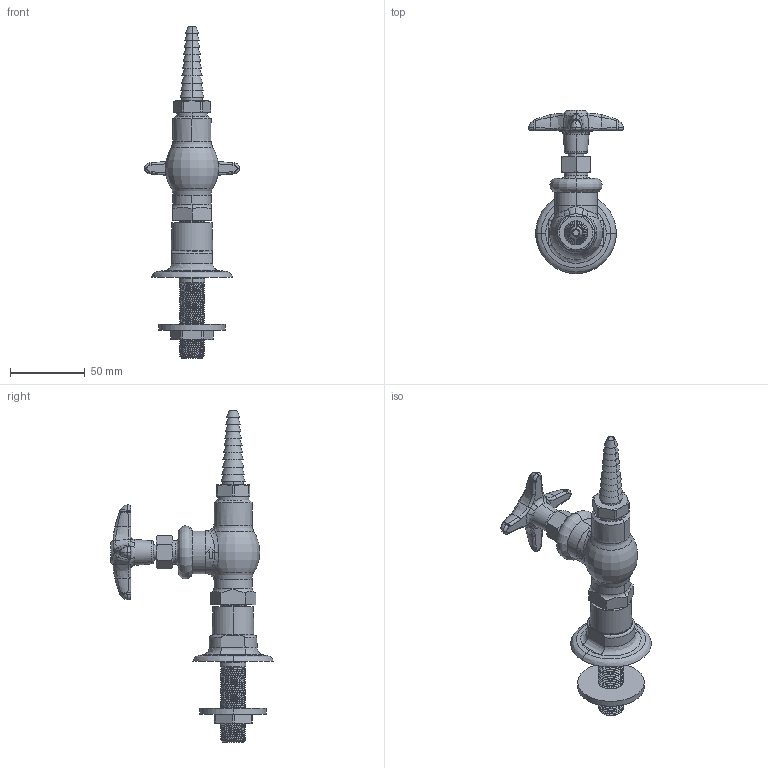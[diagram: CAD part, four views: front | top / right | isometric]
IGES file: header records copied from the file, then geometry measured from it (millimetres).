
Start section:  PTC IGES file: LGF1-A12A-55.igs
Global section: file name: LGF1-A12A-55.igs; native system: Creo Parametric by PTC Inc.; preprocessor: 2014500; author: usch_engrender; organization: Unknown; date: 20160108.100619; units: inch
Bounding box: 63.42 x 108.64 x 221.41 mm (x, y, z)
Volume: 119299.7 mm3; surface area: 43120.6 mm2
Topology: 1 solids, 4 shells, 547 faces, 1303 edges, 794 vertices
Faces by surface type: revolution 276, bspline 271
